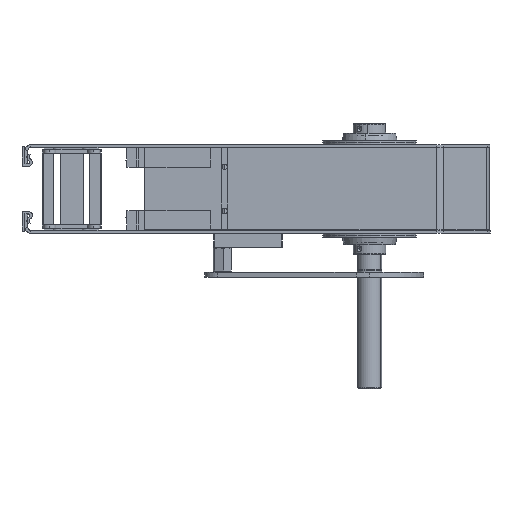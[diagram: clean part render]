
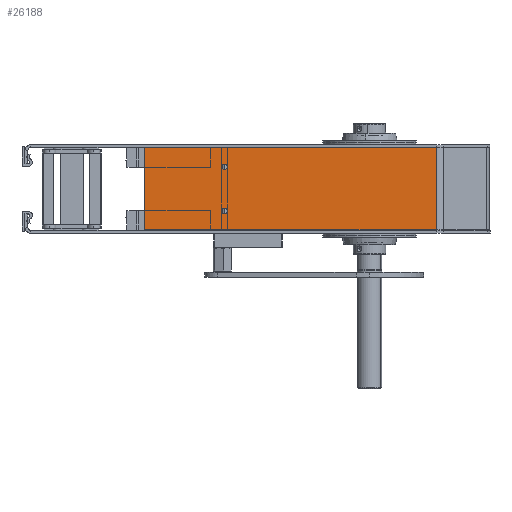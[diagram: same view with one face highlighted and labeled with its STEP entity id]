
A CAD part, left-side view. The second image highlights one B-rep face of the part: STEP entity #26188.
In plain terms, the highlighted planar face has unit normal (-1, 0, 0).
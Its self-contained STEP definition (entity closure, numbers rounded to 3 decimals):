
#803 = VERTEX_POINT ( 'NONE', #22391 ) ;
#1051 = VERTEX_POINT ( 'NONE', #22459 ) ;
#1992 = ORIENTED_EDGE ( 'NONE', *, *, #12141, .T. ) ;
#2756 = ORIENTED_EDGE ( 'NONE', *, *, #19937, .F. ) ;
#5750 = CIRCLE ( 'NONE', #14475, 2.75 ) ;
#5778 = CIRCLE ( 'NONE', #14462, 2.75 ) ;
#7868 = ORIENTED_EDGE ( 'NONE', *, *, #12143, .F. ) ;
#8153 = ORIENTED_EDGE ( 'NONE', *, *, #12110, .F. ) ;
#8740 = ORIENTED_EDGE ( 'NONE', *, *, #19900, .F. ) ;
#9081 = ORIENTED_EDGE ( 'NONE', *, *, #19965, .F. ) ;
#9083 = ORIENTED_EDGE ( 'NONE', *, *, #12008, .F. ) ;
#9428 = ORIENTED_EDGE ( 'NONE', *, *, #12125, .T. ) ;
#9712 = CARTESIAN_POINT ( 'NONE',  ( -287.877, 12.466, -66.25 ) ) ;
#9713 = DIRECTION ( 'NONE',  ( -1., 0., 0. ) ) ;
#9714 = DIRECTION ( 'NONE',  ( 0., 0., 1. ) ) ;
#9760 = CARTESIAN_POINT ( 'NONE',  ( -287.877, 12.466, -21.25 ) ) ;
#9761 = DIRECTION ( 'NONE',  ( -1., 0., 0. ) ) ;
#9762 = DIRECTION ( 'NONE',  ( 0., 0., 1. ) ) ;
#10035 = CARTESIAN_POINT ( 'NONE',  ( -287.877, 93.966, -85.5 ) ) ;
#10082 = CARTESIAN_POINT ( 'NONE',  ( -287.877, -202.892, -2. ) ) ;
#10105 = CARTESIAN_POINT ( 'NONE',  ( -287.877, 12.466, -69. ) ) ;
#10242 = CARTESIAN_POINT ( 'NONE',  ( -287.877, 93.966, -2. ) ) ;
#10246 = CARTESIAN_POINT ( 'NONE',  ( -287.877, -202.892, -85.5 ) ) ;
#10299 = CARTESIAN_POINT ( 'NONE',  ( -287.877, 12.466, -18.5 ) ) ;
#12008 = EDGE_CURVE ( 'NONE', #23783, #1051, #20180, .T. ) ;
#12110 = EDGE_CURVE ( 'NONE', #23507, #23725, #22000, .T. ) ;
#12125 = EDGE_CURVE ( 'NONE', #23729, #23557, #21970, .T. ) ;
#12141 = EDGE_CURVE ( 'NONE', #23557, #23725, #22100, .T. ) ;
#12143 = EDGE_CURVE ( 'NONE', #803, #23580, #22095, .T. ) ;
#12837 = AXIS2_PLACEMENT_3D ( 'NONE', #24107, #24108, #24109 ) ;
#12901 = AXIS2_PLACEMENT_3D ( 'NONE', #24505, #24506, #24507 ) ;
#13069 = DIRECTION ( 'NONE',  ( 1., 0., 0. ) ) ;
#13072 = CARTESIAN_POINT ( 'NONE',  ( -287.877, -207.034, -85.5 ) ) ;
#13074 = PLANE ( 'NONE',  #14834 ) ;
#13076 = DIRECTION ( 'NONE',  ( 0., 0., -1. ) ) ;
#14462 = AXIS2_PLACEMENT_3D ( 'NONE', #9712, #9713, #9714 ) ;
#14475 = AXIS2_PLACEMENT_3D ( 'NONE', #9760, #9761, #9762 ) ;
#14834 = AXIS2_PLACEMENT_3D ( 'NONE', #13072, #13069, #13076 ) ;
#15815 = FACE_BOUND ( 'NONE', #23071, .T. ) ;
#15821 = FACE_OUTER_BOUND ( 'NONE', #23008, .T. ) ;
#15827 = FACE_BOUND ( 'NONE', #22630, .T. ) ;
#17291 = VECTOR ( 'NONE', #21159, 1000. ) ;
#17292 = LINE ( 'NONE', #21158, #17291 ) ;
#19900 = EDGE_CURVE ( 'NONE', #23729, #23507, #17292, .T. ) ;
#19937 = EDGE_CURVE ( 'NONE', #23580, #803, #5778, .T. ) ;
#19965 = EDGE_CURVE ( 'NONE', #1051, #23783, #5750, .T. ) ;
#20180 = CIRCLE ( 'NONE', #12837, 2.75 ) ;
#21158 = CARTESIAN_POINT ( 'NONE',  ( -287.877, -207.034, -85.5 ) ) ;
#21159 = DIRECTION ( 'NONE',  ( 0., 1., 0. ) ) ;
#21964 = VECTOR ( 'NONE', #24455, 1000. ) ;
#21970 = LINE ( 'NONE', #24454, #21964 ) ;
#21996 = VECTOR ( 'NONE', #24419, 1000. ) ;
#22000 = LINE ( 'NONE', #24418, #21996 ) ;
#22095 = CIRCLE ( 'NONE', #12901, 2.75 ) ;
#22096 = VECTOR ( 'NONE', #24502, 1000. ) ;
#22100 = LINE ( 'NONE', #24501, #22096 ) ;
#22391 = CARTESIAN_POINT ( 'NONE',  ( -287.877, 12.466, -63.5 ) ) ;
#22459 = CARTESIAN_POINT ( 'NONE',  ( -287.877, 12.466, -24. ) ) ;
#22630 = EDGE_LOOP ( 'NONE', ( #7868, #2756 ) ) ;
#23008 = EDGE_LOOP ( 'NONE', ( #1992, #8153, #8740, #9428 ) ) ;
#23071 = EDGE_LOOP ( 'NONE', ( #9083, #9081 ) ) ;
#23507 = VERTEX_POINT ( 'NONE', #10035 ) ;
#23557 = VERTEX_POINT ( 'NONE', #10082 ) ;
#23580 = VERTEX_POINT ( 'NONE', #10105 ) ;
#23725 = VERTEX_POINT ( 'NONE', #10242 ) ;
#23729 = VERTEX_POINT ( 'NONE', #10246 ) ;
#23783 = VERTEX_POINT ( 'NONE', #10299 ) ;
#24107 = CARTESIAN_POINT ( 'NONE',  ( -287.877, 12.466, -21.25 ) ) ;
#24108 = DIRECTION ( 'NONE',  ( -1., 0., 0. ) ) ;
#24109 = DIRECTION ( 'NONE',  ( 0., 0., 1. ) ) ;
#24418 = CARTESIAN_POINT ( 'NONE',  ( -287.877, 93.966, -85.5 ) ) ;
#24419 = DIRECTION ( 'NONE',  ( 0., 0., 1. ) ) ;
#24454 = CARTESIAN_POINT ( 'NONE',  ( -287.877, -202.892, -85.5 ) ) ;
#24455 = DIRECTION ( 'NONE',  ( 0., 0., 1. ) ) ;
#24501 = CARTESIAN_POINT ( 'NONE',  ( -287.877, -207.034, -2. ) ) ;
#24502 = DIRECTION ( 'NONE',  ( 0., 1., 0. ) ) ;
#24505 = CARTESIAN_POINT ( 'NONE',  ( -287.877, 12.466, -66.25 ) ) ;
#24506 = DIRECTION ( 'NONE',  ( -1., 0., 0. ) ) ;
#24507 = DIRECTION ( 'NONE',  ( 0., 0., 1. ) ) ;
#26188 = ADVANCED_FACE ( 'NONE', ( #15827, #15815, #15821 ), #13074, .F. ) ;
